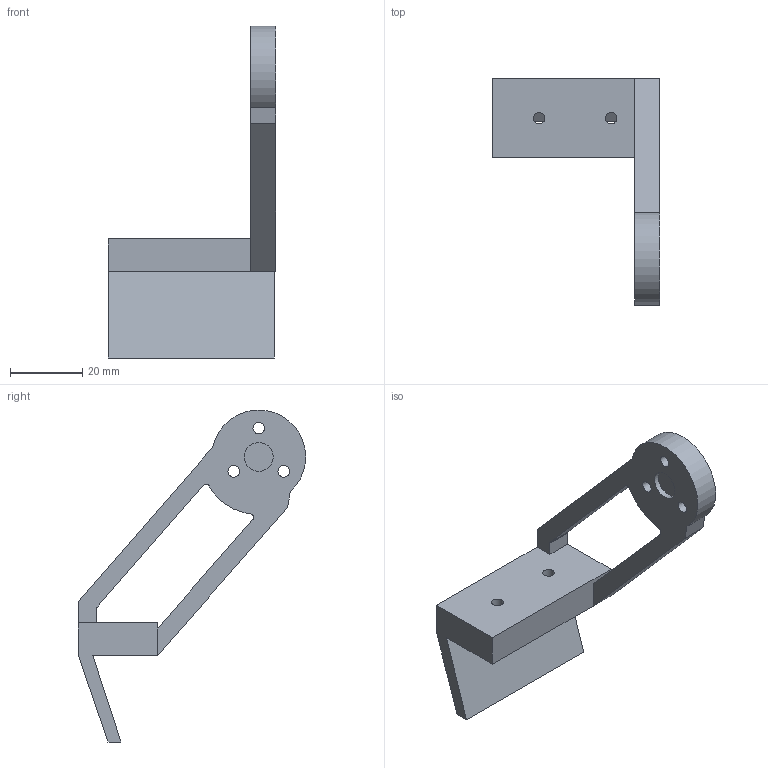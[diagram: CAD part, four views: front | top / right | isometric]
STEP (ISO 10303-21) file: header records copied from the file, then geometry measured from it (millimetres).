
FILE_DESCRIPTION(('Open CASCADE Model'),'2;1');
FILE_NAME('Open CASCADE Shape Model','2026-10-15T20:36:14',('Author'),( 'Open CASCADE'),'Open CASCADE STEP processor 7.9','Open CASCADE 7.9' ,'Unknown');
FILE_SCHEMA(('AUTOMOTIVE_DESIGN { 1 0 10303 214 1 1 1 1 }'));
Length unit declared in the file: millimetre
Products named in the file (1): Open CASCADE STEP translator 7.9 6
Bounding box: 46.5 x 63 x 92 mm (x, y, z)
Volume: 20908.6 mm3; surface area: 10314.6 mm2
Topology: 1 solids, 1 shells, 90 faces, 259 edges, 172 vertices
Faces by surface type: plane 82, cylinder 8
Full cylindrical faces by diameter (mm): 3.2 x5, 4 x1, 8 x1
Entity records: 6181 total; most frequent: CARTESIAN_POINT 1226, DIRECTION 824, LINE 601, VECTOR 601, ORIENTED_EDGE 518, PCURVE 518, DEFINITIONAL_REPRESENTATION 518, EDGE_CURVE 259
